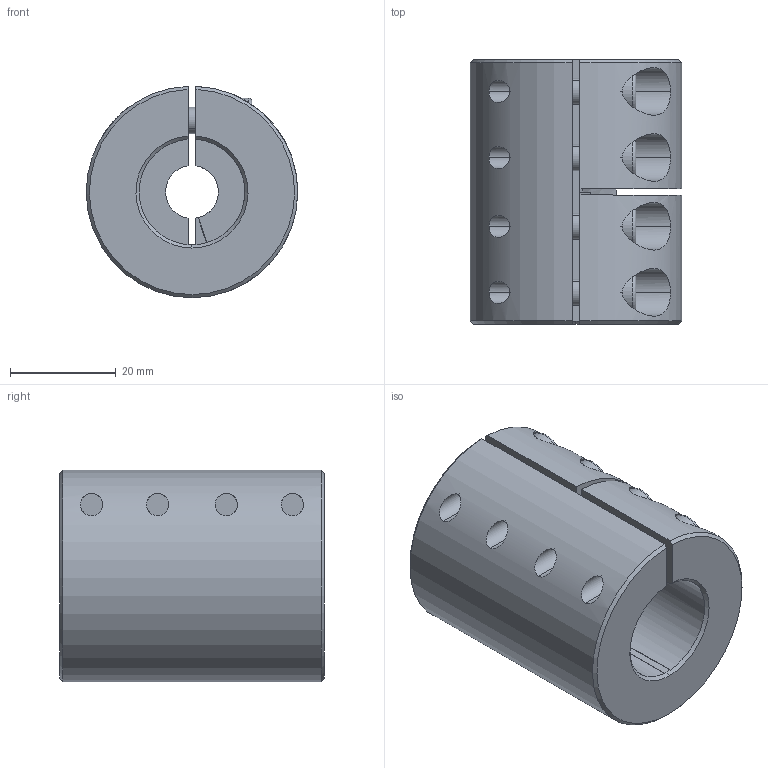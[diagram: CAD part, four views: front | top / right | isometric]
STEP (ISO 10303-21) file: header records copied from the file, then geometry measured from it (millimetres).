
FILE_DESCRIPTION (( 'STEP AP214' ), '1' );
FILE_NAME ('LL-B-D40L50-10-20½¨Ä£.STEP', '2022-07-22T00:18:34', ( '' ), ( '' ), 'SwSTEP 2.0', 'SolidWorks 2022', '' );
FILE_SCHEMA (( 'AUTOMOTIVE_DESIGN' ));
Length unit declared in the file: millimetre
Products named in the file (1): LL-B-D40L50-10-20膘耀
Bounding box: 40 x 50 x 39.99 mm (x, y, z)
Volume: 49851.3 mm3; surface area: 15579.2 mm2
Topology: 1 solids, 1 shells, 182 faces, 463 edges, 291 vertices
Faces by surface type: plane 88, cylinder 71, cone 15, torus 8
Entity records: 6017 total; most frequent: CARTESIAN_POINT 1531, DIRECTION 969, ORIENTED_EDGE 910, EDGE_CURVE 455, AXIS2_PLACEMENT_3D 377, VERTEX_POINT 291, LINE 215, VECTOR 215
